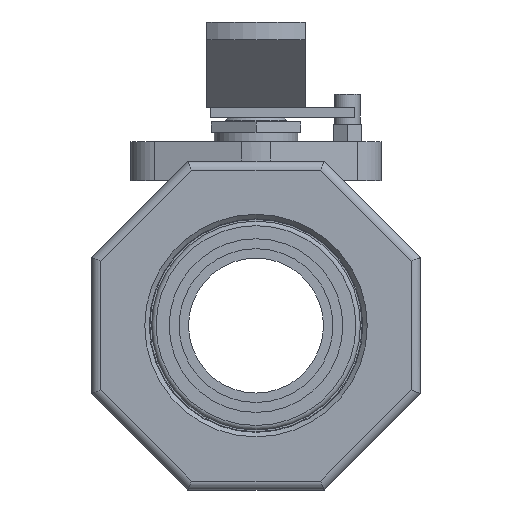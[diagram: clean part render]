
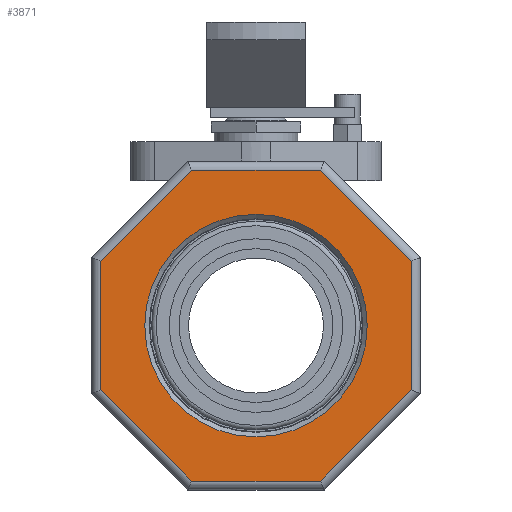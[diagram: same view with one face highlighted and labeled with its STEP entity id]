
A CAD part, left-side view. The second image highlights one B-rep face of the part: STEP entity #3871.
In plain terms, the highlighted planar face has unit normal (-1, 0, 0).
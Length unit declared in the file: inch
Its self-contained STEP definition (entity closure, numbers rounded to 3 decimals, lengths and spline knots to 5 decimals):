
#3785=CARTESIAN_POINT('',(0.793,1.2365,0.0));
#3786=VERTEX_POINT('',#3785);
#3787=CARTESIAN_POINT('',(0.793,0.0,0.0));
#3788=DIRECTION('',(-1.0,0.0,0.0));
#3789=DIRECTION('',(0.0,-1.0,0.0));
#3790=AXIS2_PLACEMENT_3D('',#3787,#3788,#3789);
#3791=CIRCLE('',#3790,1.2365);
#3792=EDGE_CURVE('',#3786,#3786,#3791,.T.);
#3797=CARTESIAN_POINT('',(0.793,0.0,0.0));
#3798=DIRECTION('',(1.0,0.0,0.0));
#3799=DIRECTION('',(0.0,0.0,-1.0));
#3800=AXIS2_PLACEMENT_3D('',#3797,#3798,#3799);
#3801=PLANE('',#3800);
#3802=CARTESIAN_POINT('',(0.793,-1.7275,-0.71555));
#3803=VERTEX_POINT('',#3802);
#3804=CARTESIAN_POINT('',(0.793,-0.71555,-1.7275));
#3805=VERTEX_POINT('',#3804);
#3806=CARTESIAN_POINT('',(0.793,-1.7275,-0.71555));
#3807=DIRECTION('',(0.0,0.707,-0.707));
#3808=VECTOR('',#3807,1.43111);
#3809=LINE('',#3806,#3808);
#3810=EDGE_CURVE('',#3803,#3805,#3809,.T.);
#3811=ORIENTED_EDGE('',*,*,#3810,.F.);
#3812=CARTESIAN_POINT('',(0.793,-1.7275,0.71555));
#3813=VERTEX_POINT('',#3812);
#3814=CARTESIAN_POINT('',(0.793,-1.7275,0.71555));
#3815=DIRECTION('',(0.0,0.0,-1.0));
#3816=VECTOR('',#3815,1.43111);
#3817=LINE('',#3814,#3816);
#3818=EDGE_CURVE('',#3813,#3803,#3817,.T.);
#3819=ORIENTED_EDGE('',*,*,#3818,.F.);
#3820=CARTESIAN_POINT('',(0.793,-0.71555,1.7275));
#3821=VERTEX_POINT('',#3820);
#3822=CARTESIAN_POINT('',(0.793,-0.71555,1.7275));
#3823=DIRECTION('',(0.0,-0.707,-0.707));
#3824=VECTOR('',#3823,1.43111);
#3825=LINE('',#3822,#3824);
#3826=EDGE_CURVE('',#3821,#3813,#3825,.T.);
#3827=ORIENTED_EDGE('',*,*,#3826,.F.);
#3828=CARTESIAN_POINT('',(0.793,0.71555,1.7275));
#3829=VERTEX_POINT('',#3828);
#3830=CARTESIAN_POINT('',(0.793,0.71555,1.7275));
#3831=DIRECTION('',(0.0,-1.0,0.0));
#3832=VECTOR('',#3831,1.43111);
#3833=LINE('',#3830,#3832);
#3834=EDGE_CURVE('',#3829,#3821,#3833,.T.);
#3835=ORIENTED_EDGE('',*,*,#3834,.F.);
#3836=CARTESIAN_POINT('',(0.793,1.7275,0.71555));
#3837=VERTEX_POINT('',#3836);
#3838=CARTESIAN_POINT('',(0.793,1.7275,0.71555));
#3839=DIRECTION('',(0.0,-0.707,0.707));
#3840=VECTOR('',#3839,1.43111);
#3841=LINE('',#3838,#3840);
#3842=EDGE_CURVE('',#3837,#3829,#3841,.T.);
#3843=ORIENTED_EDGE('',*,*,#3842,.F.);
#3844=CARTESIAN_POINT('',(0.793,1.7275,-0.71555));
#3845=VERTEX_POINT('',#3844);
#3846=CARTESIAN_POINT('',(0.793,1.7275,-0.71555));
#3847=DIRECTION('',(0.0,0.0,1.0));
#3848=VECTOR('',#3847,1.43111);
#3849=LINE('',#3846,#3848);
#3850=EDGE_CURVE('',#3845,#3837,#3849,.T.);
#3851=ORIENTED_EDGE('',*,*,#3850,.F.);
#3852=CARTESIAN_POINT('',(0.793,0.71555,-1.7275));
#3853=VERTEX_POINT('',#3852);
#3854=CARTESIAN_POINT('',(0.793,0.71555,-1.7275));
#3855=DIRECTION('',(0.0,0.707,0.707));
#3856=VECTOR('',#3855,1.43111);
#3857=LINE('',#3854,#3856);
#3858=EDGE_CURVE('',#3853,#3845,#3857,.T.);
#3859=ORIENTED_EDGE('',*,*,#3858,.F.);
#3860=CARTESIAN_POINT('',(0.793,-0.71555,-1.7275));
#3861=DIRECTION('',(0.0,1.0,0.0));
#3862=VECTOR('',#3861,1.43111);
#3863=LINE('',#3860,#3862);
#3864=EDGE_CURVE('',#3805,#3853,#3863,.T.);
#3865=ORIENTED_EDGE('',*,*,#3864,.F.);
#3866=EDGE_LOOP('',(#3811,#3819,#3827,#3835,#3843,#3851,#3859,#3865));
#3867=FACE_OUTER_BOUND('',#3866,.T.);
#3868=ORIENTED_EDGE('',*,*,#3792,.F.);
#3869=EDGE_LOOP('',(#3868));
#3870=FACE_BOUND('',#3869,.T.);
#3871=ADVANCED_FACE('',(#3867,#3870),#3801,.F.);
